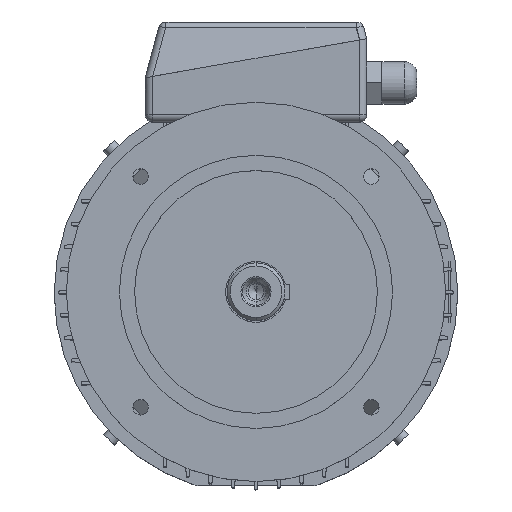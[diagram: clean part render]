
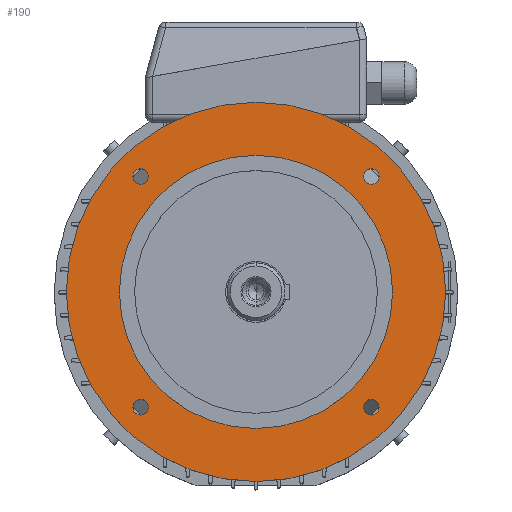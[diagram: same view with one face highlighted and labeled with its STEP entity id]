
A CAD part, top view. The second image highlights one B-rep face of the part: STEP entity #190.
In plain terms, the highlighted planar face has unit normal (0, 0, 1).
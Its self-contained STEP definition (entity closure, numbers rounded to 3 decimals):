
#143 = EDGE_LOOP ( 'NONE', ( #6376, #5445 ) ) ;
#190 = ADVANCED_FACE ( 'NONE', ( #1582, #1583, #1589, #1590, #1591, #1592 ), #1593, .F. ) ;
#314 = VERTEX_POINT ( 'NONE', #1859 ) ;
#365 = EDGE_CURVE ( 'NONE', #576, #314, #1990, .T. ) ;
#518 = EDGE_CURVE ( 'NONE', #9361, #9613, #2331, .T. ) ;
#576 = VERTEX_POINT ( 'NONE', #2438 ) ;
#1582 = FACE_BOUND ( 'NONE', #143, .T. ) ;
#1583 = FACE_BOUND ( 'NONE', #5178, .T. ) ;
#1589 = FACE_BOUND ( 'NONE', #3152, .T. ) ;
#1590 = FACE_BOUND ( 'NONE', #11787, .T. ) ;
#1591 = FACE_BOUND ( 'NONE', #9958, .T. ) ;
#1592 = FACE_OUTER_BOUND ( 'NONE', #8531, .T. ) ;
#1593 = PLANE ( 'NONE',  #1594 ) ;
#1594 = AXIS2_PLACEMENT_3D ( 'NONE', #1595, #1596, #1597 ) ;
#1595 = CARTESIAN_POINT ( 'NONE',  ( 0., 125., 58. ) ) ;
#1596 = DIRECTION ( 'NONE',  ( 0., 0., -1. ) ) ;
#1597 = DIRECTION ( 'NONE',  ( -1., 0., 0. ) ) ;
#1612 = ORIENTED_EDGE ( 'NONE', *, *, #12263, .F. ) ;
#1859 = CARTESIAN_POINT ( 'NONE',  ( -70.914, -76.014, 58. ) ) ;
#1990 = CIRCLE ( 'NONE', #1991, 5.1 ) ;
#1991 = AXIS2_PLACEMENT_3D ( 'NONE', #1992, #1993, #1994 ) ;
#1992 = CARTESIAN_POINT ( 'NONE',  ( -76.014, -76.014, 58. ) ) ;
#1993 = DIRECTION ( 'NONE',  ( 0., 0., 1. ) ) ;
#1994 = DIRECTION ( 'NONE',  ( 1., 0., 0. ) ) ;
#2187 = EDGE_CURVE ( 'NONE', #12210, #12511, #4082, .T. ) ;
#2266 = VERTEX_POINT ( 'NONE', #4130 ) ;
#2331 = CIRCLE ( 'NONE', #2332, 90. ) ;
#2332 = AXIS2_PLACEMENT_3D ( 'NONE', #2333, #2334, #2335 ) ;
#2333 = CARTESIAN_POINT ( 'NONE',  ( 0., 0., 58. ) ) ;
#2334 = DIRECTION ( 'NONE',  ( 0., 0., 1. ) ) ;
#2335 = DIRECTION ( 'NONE',  ( 1., 0., 0. ) ) ;
#2438 = CARTESIAN_POINT ( 'NONE',  ( -81.114, -76.014, 58. ) ) ;
#2506 = EDGE_CURVE ( 'NONE', #2266, #3478, #4207, .T. ) ;
#2588 = ORIENTED_EDGE ( 'NONE', *, *, #2187, .F. ) ;
#3152 = EDGE_LOOP ( 'NONE', ( #2588, #1612 ) ) ;
#3421 = ORIENTED_EDGE ( 'NONE', *, *, #9114, .F. ) ;
#3478 = VERTEX_POINT ( 'NONE', #4630 ) ;
#3999 = EDGE_CURVE ( 'NONE', #8864, #10100, #4918, .T. ) ;
#4038 = VERTEX_POINT ( 'NONE', #4940 ) ;
#4082 = CIRCLE ( 'NONE', #4083, 5.1 ) ;
#4083 = AXIS2_PLACEMENT_3D ( 'NONE', #4084, #4085, #4086 ) ;
#4084 = CARTESIAN_POINT ( 'NONE',  ( 76.014, -76.014, 58. ) ) ;
#4085 = DIRECTION ( 'NONE',  ( 0., 0., 1. ) ) ;
#4086 = DIRECTION ( 'NONE',  ( 1., 0., 0. ) ) ;
#4130 = CARTESIAN_POINT ( 'NONE',  ( 125., 0., 58. ) ) ;
#4207 = CIRCLE ( 'NONE', #4208, 125. ) ;
#4208 = AXIS2_PLACEMENT_3D ( 'NONE', #4209, #4210, #4211 ) ;
#4209 = CARTESIAN_POINT ( 'NONE',  ( 0., 0., 58. ) ) ;
#4210 = DIRECTION ( 'NONE',  ( 0., 0., 1. ) ) ;
#4211 = DIRECTION ( 'NONE',  ( 1., 0., 0. ) ) ;
#4287 = EDGE_CURVE ( 'NONE', #5282, #4038, #5188, .T. ) ;
#4413 = ORIENTED_EDGE ( 'NONE', *, *, #3999, .F. ) ;
#4630 = CARTESIAN_POINT ( 'NONE',  ( -125., 0., 58. ) ) ;
#4918 = CIRCLE ( 'NONE', #4919, 5.1 ) ;
#4919 = AXIS2_PLACEMENT_3D ( 'NONE', #4920, #4921, #4922 ) ;
#4920 = CARTESIAN_POINT ( 'NONE',  ( 76.014, 76.014, 58. ) ) ;
#4921 = DIRECTION ( 'NONE',  ( 0., 0., 1. ) ) ;
#4922 = DIRECTION ( 'NONE',  ( 1., 0., 0. ) ) ;
#4940 = CARTESIAN_POINT ( 'NONE',  ( -70.914, 76.014, 58. ) ) ;
#5178 = EDGE_LOOP ( 'NONE', ( #4413, #3421 ) ) ;
#5188 = CIRCLE ( 'NONE', #5189, 5.1 ) ;
#5189 = AXIS2_PLACEMENT_3D ( 'NONE', #5190, #5191, #5192 ) ;
#5190 = CARTESIAN_POINT ( 'NONE',  ( -76.014, 76.014, 58. ) ) ;
#5191 = DIRECTION ( 'NONE',  ( 0., 0., 1. ) ) ;
#5192 = DIRECTION ( 'NONE',  ( 1., 0., 0. ) ) ;
#5282 = VERTEX_POINT ( 'NONE', #6093 ) ;
#5353 = CARTESIAN_POINT ( 'NONE',  ( 70.914, -76.014, 58. ) ) ;
#5445 = ORIENTED_EDGE ( 'NONE', *, *, #4287, .F. ) ;
#6006 = EDGE_CURVE ( 'NONE', #4038, #5282, #7243, .T. ) ;
#6093 = CARTESIAN_POINT ( 'NONE',  ( -81.114, 76.014, 58. ) ) ;
#6376 = ORIENTED_EDGE ( 'NONE', *, *, #6006, .F. ) ;
#6975 = EDGE_CURVE ( 'NONE', #3478, #2266, #7911, .T. ) ;
#7243 = CIRCLE ( 'NONE', #7244, 5.1 ) ;
#7244 = AXIS2_PLACEMENT_3D ( 'NONE', #7245, #7246, #7247 ) ;
#7245 = CARTESIAN_POINT ( 'NONE',  ( -76.014, 76.014, 58. ) ) ;
#7246 = DIRECTION ( 'NONE',  ( 0., 0., 1. ) ) ;
#7247 = DIRECTION ( 'NONE',  ( 1., 0., 0. ) ) ;
#7386 = ORIENTED_EDGE ( 'NONE', *, *, #6975, .T. ) ;
#7911 = CIRCLE ( 'NONE', #7912, 125. ) ;
#7912 = AXIS2_PLACEMENT_3D ( 'NONE', #7918, #7919, #7920 ) ;
#7918 = CARTESIAN_POINT ( 'NONE',  ( 0., 0., 58. ) ) ;
#7919 = DIRECTION ( 'NONE',  ( 0., 0., 1. ) ) ;
#7920 = DIRECTION ( 'NONE',  ( 1., 0., 0. ) ) ;
#7959 = ORIENTED_EDGE ( 'NONE', *, *, #2506, .T. ) ;
#8531 = EDGE_LOOP ( 'NONE', ( #7959, #7386 ) ) ;
#8801 = ORIENTED_EDGE ( 'NONE', *, *, #518, .F. ) ;
#8854 = CARTESIAN_POINT ( 'NONE',  ( 81.114, 76.014, 58. ) ) ;
#8864 = VERTEX_POINT ( 'NONE', #8854 ) ;
#8977 = CIRCLE ( 'NONE', #8978, 5.1 ) ;
#8978 = AXIS2_PLACEMENT_3D ( 'NONE', #8979, #8980, #8981 ) ;
#8979 = CARTESIAN_POINT ( 'NONE',  ( 76.014, 76.014, 58. ) ) ;
#8980 = DIRECTION ( 'NONE',  ( 0., 0., 1. ) ) ;
#8981 = DIRECTION ( 'NONE',  ( 1., 0., 0. ) ) ;
#9083 = CARTESIAN_POINT ( 'NONE',  ( -90., 0., 58. ) ) ;
#9114 = EDGE_CURVE ( 'NONE', #10100, #8864, #8977, .T. ) ;
#9220 = CARTESIAN_POINT ( 'NONE',  ( 90., 0., 58. ) ) ;
#9310 = CIRCLE ( 'NONE', #9311, 90. ) ;
#9311 = AXIS2_PLACEMENT_3D ( 'NONE', #9312, #9313, #9314 ) ;
#9312 = CARTESIAN_POINT ( 'NONE',  ( 0., 0., 58. ) ) ;
#9313 = DIRECTION ( 'NONE',  ( 0., 0., 1. ) ) ;
#9314 = DIRECTION ( 'NONE',  ( 1., 0., 0. ) ) ;
#9361 = VERTEX_POINT ( 'NONE', #9083 ) ;
#9383 = ORIENTED_EDGE ( 'NONE', *, *, #9849, .F. ) ;
#9488 = CARTESIAN_POINT ( 'NONE',  ( 70.914, 76.014, 58. ) ) ;
#9613 = VERTEX_POINT ( 'NONE', #9220 ) ;
#9842 = CIRCLE ( 'NONE', #9843, 5.1 ) ;
#9843 = AXIS2_PLACEMENT_3D ( 'NONE', #9844, #9845, #9846 ) ;
#9844 = CARTESIAN_POINT ( 'NONE',  ( -76.014, -76.014, 58. ) ) ;
#9845 = DIRECTION ( 'NONE',  ( 0., 0., 1. ) ) ;
#9846 = DIRECTION ( 'NONE',  ( 1., 0., 0. ) ) ;
#9849 = EDGE_CURVE ( 'NONE', #9613, #9361, #9310, .T. ) ;
#9958 = EDGE_LOOP ( 'NONE', ( #9383, #8801 ) ) ;
#10100 = VERTEX_POINT ( 'NONE', #9488 ) ;
#10229 = ORIENTED_EDGE ( 'NONE', *, *, #365, .F. ) ;
#10806 = EDGE_CURVE ( 'NONE', #314, #576, #9842, .T. ) ;
#11209 = ORIENTED_EDGE ( 'NONE', *, *, #10806, .F. ) ;
#11237 = CARTESIAN_POINT ( 'NONE',  ( 81.114, -76.014, 58. ) ) ;
#11408 = CIRCLE ( 'NONE', #11409, 5.1 ) ;
#11409 = AXIS2_PLACEMENT_3D ( 'NONE', #11410, #11411, #11412 ) ;
#11410 = CARTESIAN_POINT ( 'NONE',  ( 76.014, -76.014, 58. ) ) ;
#11411 = DIRECTION ( 'NONE',  ( 0., 0., 1. ) ) ;
#11412 = DIRECTION ( 'NONE',  ( 1., 0., 0. ) ) ;
#11787 = EDGE_LOOP ( 'NONE', ( #11209, #10229 ) ) ;
#12210 = VERTEX_POINT ( 'NONE', #11237 ) ;
#12263 = EDGE_CURVE ( 'NONE', #12511, #12210, #11408, .T. ) ;
#12511 = VERTEX_POINT ( 'NONE', #5353 ) ;
